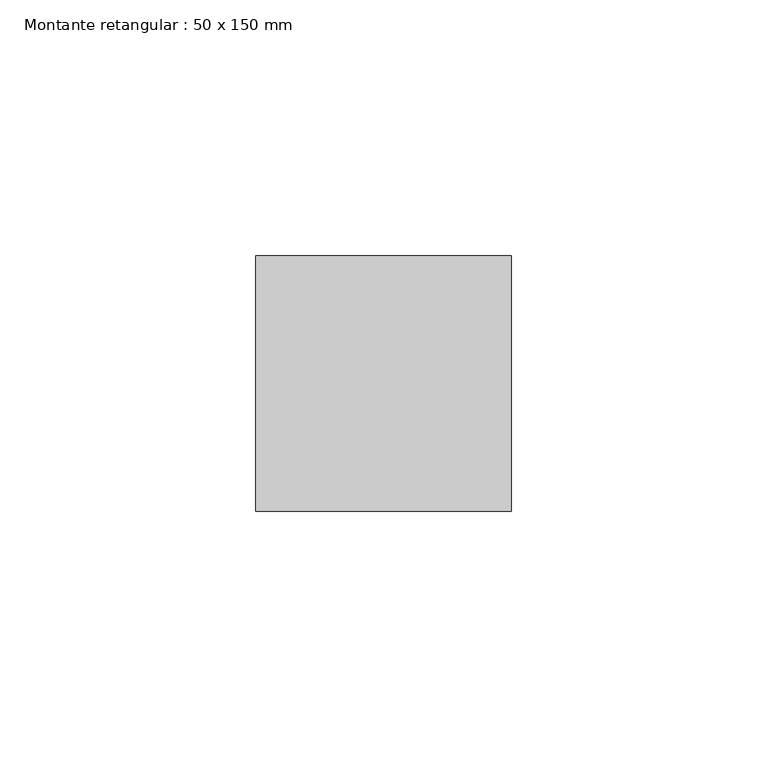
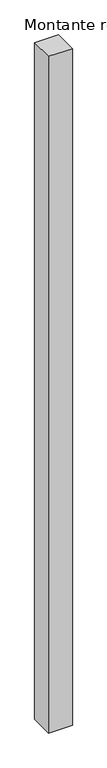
"""IFC4 building model written with IfcOpenShell, lengths in millimetres: member geometry, Montante retangular : 50 x 150 mm."""

from ifc_helpers import new_model, si_unit, frame, origin, place, context, project, spatial, polyline, outline, extrude, source, transform, mapped, element, save


def montante_retangular_50_x_150_mm_08f7252f(model_context):
    return source(origin(), model_context, "Body", "SweptSolid", [
        extrude(outline(polyline([(25.0, 25.0), (25.0, -25.0), (-25.0, -25.0), (-25.0, 25.0), (25.0, 25.0)])), frame((0.0, 0.0, -1500.0), z_axis=(0.0, 0.0, 1.0), x_axis=(1.0, 0.0, 0.0)), (0.0, 0.0, 1.0), 1500.0),
    ])


if __name__ == "__main__":
    model = new_model("IFC4")
    model_context = context("Model", 3, world=origin())
    ifc_project = project(units=[si_unit("LENGTHUNIT", "METRE", prefix="MILLI")], contexts=[model_context])
    site = spatial("IfcSite", under=ifc_project)
    building = spatial("IfcBuilding", under=site)
    placement = place(None, origin())
    montante_retangular_50_x_150_mm_shape = montante_retangular_50_x_150_mm_08f7252f(model_context)
    element("IfcMember", 1, ObjectType="Montante retangular : 50 x 150 mm", at=placement, inside=building, context=model_context, shape_type="MappedRepresentation", body=[
        mapped(montante_retangular_50_x_150_mm_shape, transform((0.0, 0.0, 0.0), x_axis=(1.0, 0.0, 0.0), y_axis=(0.0, 1.0, 0.0), z_axis=(0.0, 0.0, 1.0))),
    ])
    save(model, "model.ifc")
